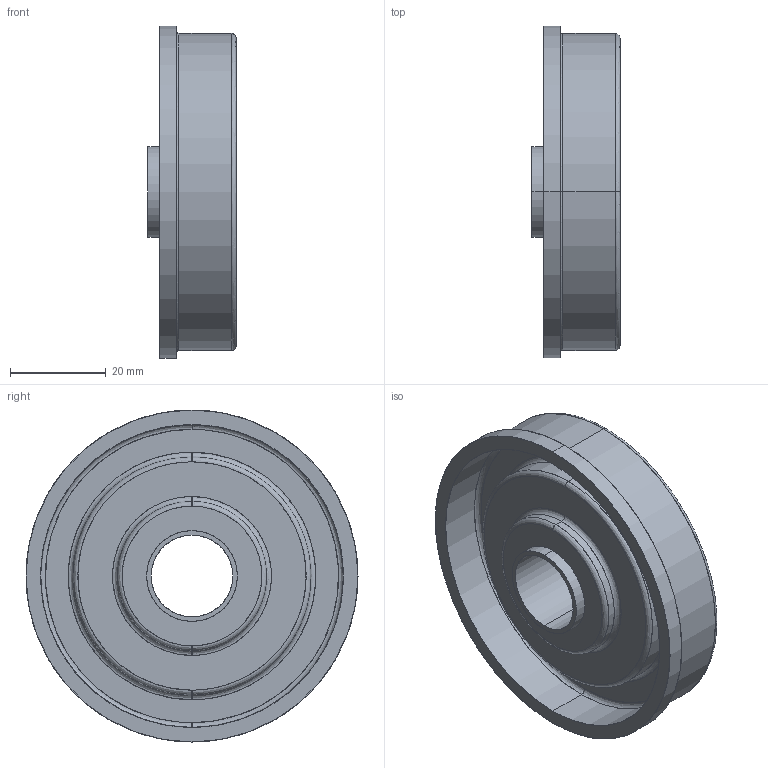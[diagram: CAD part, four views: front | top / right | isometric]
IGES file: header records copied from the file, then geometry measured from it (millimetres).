
Start section: SolidWorks IGES file using analytic representation for surfaces
Global section: file name: C:\Documents and Settings\URETIM3\Desktop\katolg\mtr-70x2.IGS; native system: SolidWorks 2006 by SolidWorks Corporation; preprocessor: SolidWorks 2006 by SolidWorks Corporation; author: URETIM3; date: 061109.105221; units: millimetre
Bounding box: 18.5 x 69.5 x 69.5 mm (x, y, z)
Surface area: 14388.9 mm2 (no closed solid volume)
Topology: 0 solids, 0 shells, 38 faces, 952 edges, 952 vertices
Faces by surface type: bspline 22, revolution 16
